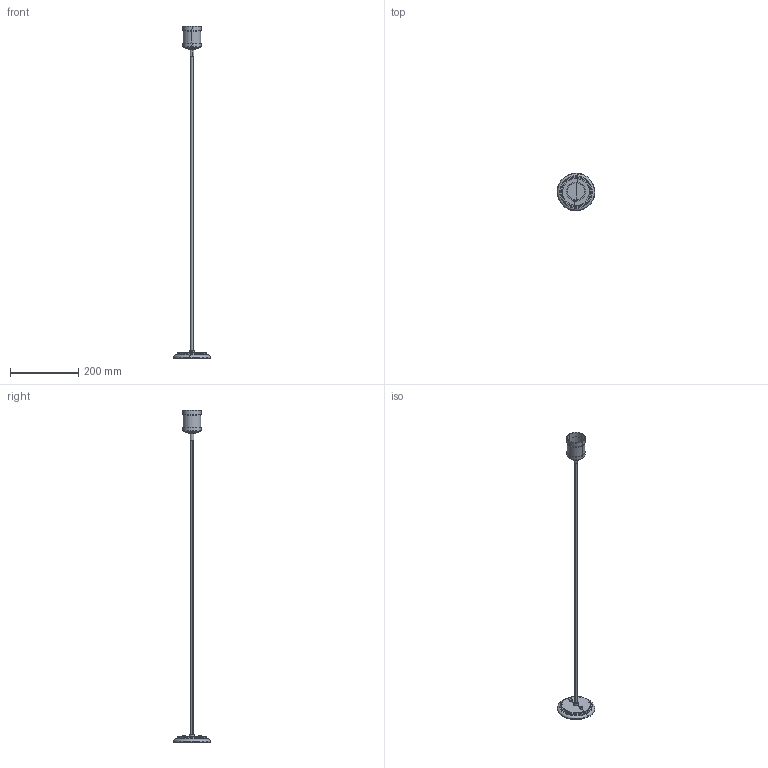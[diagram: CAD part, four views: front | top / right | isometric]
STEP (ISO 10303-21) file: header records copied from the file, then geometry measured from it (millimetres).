
FILE_DESCRIPTION(/* description */ (''),/* implementation_level */ '2;1');
FILE_NAME(/* name */ 'C:\Users\Franco Sartori E\Documents\FARO\DUPLICADO\Modelos\01_Digitalizados\0_ART\03_Publicación\64137.stp',/* time_stamp */ '2020-10-26T13:08:10+01:00',/* author */ ('Franco Sartori E'),/* organization */ (''),/* preprocessor_version */ 'ST-DEVELOPER v18.1',/* originating_system */ 'AutoCAD Mechanical',/* authorisation */ '');
FILE_SCHEMA (('AUTOMOTIVE_DESIGN { 1 0 10303 214 3 1 1 }'));
Length unit declared in the file: millimetre
Products named in the file (3): Product; 64137_65134_SP - ceiling support-638032-_3D_; 64137_65134_LH - Lamp Holder-638033-_3D_
Assembly tree (2 placements, depth 2):
  Product
    64137_65134_SP - ceiling support-638032-_3D_
    64137_65134_LH - Lamp Holder-638033-_3D_
Bounding box: 109.81 x 109.81 x 970 mm (x, y, z)
Volume: 96958.4 mm3; surface area: 66541.4 mm2
Topology: 5 solids, 5 shells, 88 faces, 162 edges, 82 vertices
Faces by surface type: plane 38, cylinder 36, torus 6, cone 6, bspline 2
Entity records: 2513 total; most frequent: CARTESIAN_POINT 683, DIRECTION 422, ORIENTED_EDGE 324, AXIS2_PLACEMENT_3D 175, EDGE_CURVE 162, FACE_OUTER_BOUND 88, EDGE_LOOP 88, ADVANCED_FACE 88
